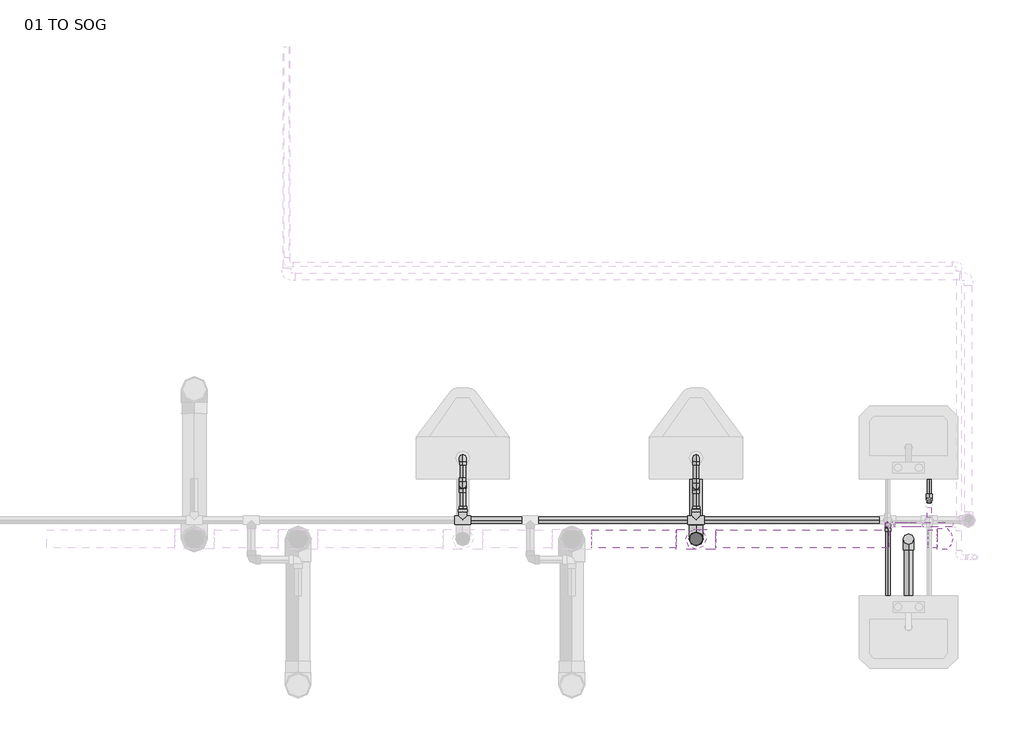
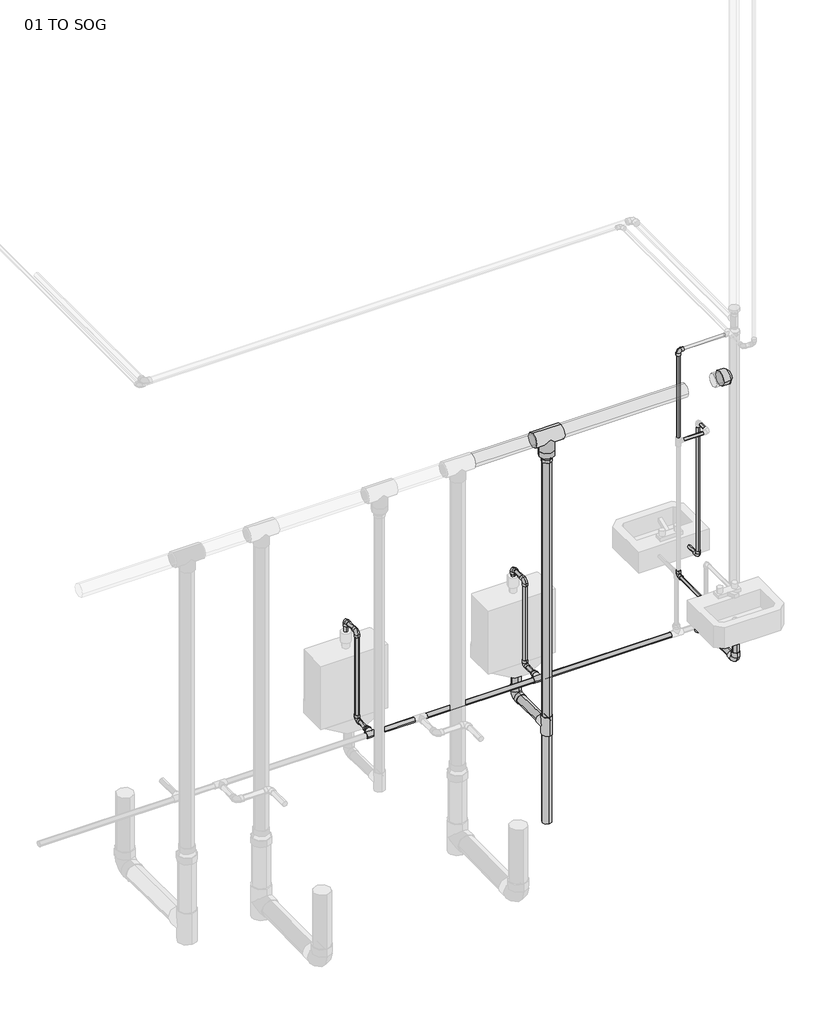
# One storey, part 3 of 4: 27 pipe segments, 20 pipe fittings.
"""IFC4 building model written with IfcOpenShell, lengths in millimetres."""

from ifc_helpers import new_model, si_unit, point, frame, frame_2d, origin, place, context, project, spatial, circle_curve, trimmed, segment, composite_curve, outline, extrude, transform, mapped, element, save
from components import cap_pvc_sch_40_standard_56ae4cf4, elbow_pvc_sch_40_standard_49eec4e1, elbow_pvc_sch_40_standard_39e3f0c3, elbow_pvc_sch_40_standard_69e4ce0e, elbow_pvc_sch_40_standard_b266ab3f, reducer_pvc_sch_40_dwv_standard_464ee0c2, reducer_pvc_sch_40_dwv_standard_0d64fc83, tee_pvc_sch_40_standard_b08d6211, tee_pvc_sch_40_standard_08ff6011, tee_pvc_sch_40_standard_9261842d, tee_pvc_sch_40_standard_72b35c3b

model = new_model("IFC4")

# Units and contexts
model_context = context("Model", 3, world=origin())
ifc_project = project(units=[si_unit("LENGTHUNIT", "METRE", prefix="MILLI")], contexts=[model_context])

# Site, building, storey
site = spatial("IfcSite", under=ifc_project)
building = spatial("IfcBuilding", under=site)
storey = spatial("IfcBuildingStorey", under=building, Name="01 TO SOG", Elevation=0.0)

# Pipe fittings
placement = place(None, origin())
cap_pvc_sch_40_standard_shape = cap_pvc_sch_40_standard_56ae4cf4(model_context)
element("IfcPipeFitting", 1, ObjectType="Cap - PVC - Sch 40 : Standard", at=placement, inside=storey, context=model_context, shape_type="MappedRepresentation", body=[
    mapped(cap_pvc_sch_40_standard_shape, transform((-12487.0540617, -4439.7857603, 2163.7752), x_axis=(1.0, 0.0, 0.0), y_axis=(0.0, 1.0, 0.0), z_axis=(0.0, 0.0, 1.0))),
])
elbow_pvc_sch_40_standard_shape = elbow_pvc_sch_40_standard_49eec4e1(model_context)
element("IfcPipeFitting", 2, ObjectType="Elbow - PVC - Sch 40 : Standard", at=placement, inside=storey, context=model_context, shape_type="MappedRepresentation", body=[
    mapped(elbow_pvc_sch_40_standard_shape, transform((-12527.2862378, -4252.3203325, 786.9219792), x_axis=(0.0, -1.0, 0.0), y_axis=(0.0, 0.0, 1.0), z_axis=(-1.0, 0.0, 0.0))),
])
element("IfcPipeFitting", 3, ObjectType="Elbow - PVC - Sch 40 : Standard", at=placement, inside=storey, context=model_context, shape_type="MappedRepresentation", body=[
    mapped(elbow_pvc_sch_40_standard_shape, transform((-12729.9542617, -4369.7953325, 787.4), x_axis=(0.0, 0.0, -1.0), y_axis=(0.0, -1.0, 0.0), z_axis=(-1.0, 0.0, 0.0))),
])
element("IfcPipeFitting", 4, ObjectType="Elbow - PVC - Sch 40 : Standard", at=placement, inside=storey, context=model_context, shape_type="MappedRepresentation", body=[
    mapped(elbow_pvc_sch_40_standard_shape, transform((-12729.9542617, -4369.7953325, 2409.1325453), x_axis=(0.0, 0.0, 1.0), y_axis=(1.0, 0.0, 0.0), z_axis=(0.0, 1.0, 0.0))),
])
elbow_pvc_sch_40_standard_2_shape = elbow_pvc_sch_40_standard_39e3f0c3(model_context)
element("IfcPipeFitting", 5, ObjectType="Elbow - PVC - Sch 40 : Standard", at=placement, inside=storey, context=model_context, shape_type="MappedRepresentation", body=[
    mapped(elbow_pvc_sch_40_standard_2_shape, transform((-13669.7542617, -4075.7109575, 77.7875), x_axis=(0.0, 0.0, -1.0), y_axis=(0.0, -1.0, 0.0), z_axis=(-1.0, 0.0, 0.0))),
])
elbow_pvc_sch_40_standard_3_shape = elbow_pvc_sch_40_standard_69e4ce0e(model_context)
element("IfcPipeFitting", 6, ObjectType="Elbow - PVC - Sch 40 : Standard", at=placement, inside=storey, context=model_context, shape_type="MappedRepresentation", body=[
    mapped(elbow_pvc_sch_40_standard_3_shape, transform((-12628.3542617, -4871.4453325, 447.675), x_axis=(0.0, 0.0, -1.0), y_axis=(0.0, 1.0, 0.0), z_axis=(1.0, 0.0, 0.0))),
])
elbow_pvc_sch_40_standard_4_shape = elbow_pvc_sch_40_standard_b266ab3f(model_context)
element("IfcPipeFitting", 7, ObjectType="Elbow - PVC - Sch 40 : Standard", at=placement, inside=storey, context=model_context, shape_type="MappedRepresentation", body=[
    mapped(elbow_pvc_sch_40_standard_4_shape, transform((-14812.7542617, -4041.5797075, 988.21875), x_axis=(0.0, 0.0, 1.0), y_axis=(0.0, -1.0, 0.0), z_axis=(1.0, 0.0, 0.0))),
])
element("IfcPipeFitting", 8, ObjectType="Elbow - PVC - Sch 40 : Standard", at=placement, inside=storey, context=model_context, shape_type="MappedRepresentation", body=[
    mapped(elbow_pvc_sch_40_standard_4_shape, transform((-14812.7542617, -4174.9297075, 988.21875), x_axis=(0.0, -1.0, 0.0), y_axis=(0.0, 0.0, -1.0), z_axis=(1.0, 0.0, 0.0))),
])
element("IfcPipeFitting", 9, ObjectType="Elbow - PVC - Sch 40 : Standard", at=placement, inside=storey, context=model_context, shape_type="MappedRepresentation", body=[
    mapped(elbow_pvc_sch_40_standard_4_shape, transform((-14812.7542617, -4174.9297075, 355.6), x_axis=(0.0, 0.0, -1.0), y_axis=(0.0, -1.0, 0.0), z_axis=(-1.0, 0.0, 0.0))),
])
element("IfcPipeFitting", 10, ObjectType="Elbow - PVC - Sch 40 : Standard", at=placement, inside=storey, context=model_context, shape_type="MappedRepresentation", body=[
    mapped(elbow_pvc_sch_40_standard_4_shape, transform((-13669.7542617, -4041.5797075, 962.81875), x_axis=(0.0, 0.0, 1.0), y_axis=(0.0, -1.0, 0.0), z_axis=(1.0, 0.0, 0.0))),
])
element("IfcPipeFitting", 11, ObjectType="Elbow - PVC - Sch 40 : Standard", at=placement, inside=storey, context=model_context, shape_type="MappedRepresentation", body=[
    mapped(elbow_pvc_sch_40_standard_4_shape, transform((-13669.7542617, -4181.2797075, 962.81875), x_axis=(0.0, -1.0, 0.0), y_axis=(0.0, 0.0, -1.0), z_axis=(1.0, 0.0, 0.0))),
])
element("IfcPipeFitting", 12, ObjectType="Elbow - PVC - Sch 40 : Standard", at=placement, inside=storey, context=model_context, shape_type="MappedRepresentation", body=[
    mapped(elbow_pvc_sch_40_standard_4_shape, transform((-13669.7542617, -4181.2797075, 355.6), x_axis=(0.0, 0.0, -1.0), y_axis=(0.0, -1.0, 0.0), z_axis=(-1.0, 0.0, 0.0))),
])
reducer_pvc_sch_40_dwv_standard_shape = reducer_pvc_sch_40_dwv_standard_464ee0c2(model_context)
element("IfcPipeFitting", 13, ObjectType="Reducer - PVC - Sch 40 - DWV : Standard", at=placement, inside=storey, context=model_context, shape_type="MappedRepresentation", body=[
    mapped(reducer_pvc_sch_40_dwv_standard_shape, transform((-13669.7542617, -4439.7857603, 2066.925), x_axis=(0.0, 0.0, -1.0), y_axis=(-1.0, 0.0, 0.0), z_axis=(0.0, 1.0, 0.0))),
])
reducer_pvc_sch_40_dwv_standard_2_shape = reducer_pvc_sch_40_dwv_standard_0d64fc83(model_context)
element("IfcPipeFitting", 14, ObjectType="Reducer - PVC - Sch 40 - DWV : Standard", at=placement, inside=storey, context=model_context, shape_type="MappedRepresentation", body=[
    mapped(reducer_pvc_sch_40_dwv_standard_2_shape, transform((-14812.7542617, -4307.8701325, 355.6), x_axis=(0.0, 1.0, 0.0), y_axis=(-1.0, 0.0, 0.0), z_axis=(0.0, 0.0, 1.0))),
])
element("IfcPipeFitting", 15, ObjectType="Reducer - PVC - Sch 40 - DWV : Standard", at=placement, inside=storey, context=model_context, shape_type="MappedRepresentation", body=[
    mapped(reducer_pvc_sch_40_dwv_standard_2_shape, transform((-13669.7542617, -4307.8701325, 355.6), x_axis=(0.0, 1.0, 0.0), y_axis=(-1.0, 0.0, 0.0), z_axis=(0.0, 0.0, 1.0))),
])
tee_pvc_sch_40_standard_shape = tee_pvc_sch_40_standard_b08d6211(model_context)
element("IfcPipeFitting", 16, ObjectType="Tee - PVC - Sch 40 : Standard", at=placement, inside=storey, context=model_context, shape_type="MappedRepresentation", body=[
    mapped(tee_pvc_sch_40_standard_shape, transform((-13669.7542617, -4439.7857603, 81.5799459), x_axis=(0.0, 0.0, 1.0), y_axis=(0.0, -1.0, 0.0), z_axis=(1.0, 0.0, 0.0))),
])
tee_pvc_sch_40_standard_2_shape = tee_pvc_sch_40_standard_08ff6011(model_context)
element("IfcPipeFitting", 17, ObjectType="Tee - PVC - Sch 40 : Standard", at=placement, inside=storey, context=model_context, shape_type="MappedRepresentation", body=[
    mapped(tee_pvc_sch_40_standard_2_shape, transform((-12628.3542617, -4439.7857603, 447.675), x_axis=(0.0, 0.0, 1.0), y_axis=(0.0, 1.0, 0.0), z_axis=(-1.0, 0.0, 0.0))),
])
tee_pvc_sch_40_standard_3_shape = tee_pvc_sch_40_standard_9261842d(model_context)
element("IfcPipeFitting", 18, ObjectType="Tee - PVC - Sch 40 : Standard", at=placement, inside=storey, context=model_context, shape_type="MappedRepresentation", body=[
    mapped(tee_pvc_sch_40_standard_3_shape, transform((-13669.7542617, -4439.7857603, 2163.7752), x_axis=(-1.0, 0.0, 0.0), y_axis=(0.0, 0.0, 1.0), z_axis=(0.0, 1.0, 0.0))),
])
tee_pvc_sch_40_standard_4_shape = tee_pvc_sch_40_standard_72b35c3b(model_context)
element("IfcPipeFitting", 19, ObjectType="Tee - PVC - Sch 40 : Standard", at=placement, inside=storey, context=model_context, shape_type="MappedRepresentation", body=[
    mapped(tee_pvc_sch_40_standard_4_shape, transform((-14812.7542617, -4347.5703325, 355.6), x_axis=(-1.0, 0.0, 0.0), y_axis=(0.0, -1.0, 0.0), z_axis=(0.0, 0.0, 1.0))),
])
element("IfcPipeFitting", 20, ObjectType="Tee - PVC - Sch 40 : Standard", at=placement, inside=storey, context=model_context, shape_type="MappedRepresentation", body=[
    mapped(tee_pvc_sch_40_standard_4_shape, transform((-13669.7542617, -4347.5703325, 355.6), x_axis=(-1.0, 0.0, 0.0), y_axis=(0.0, -1.0, 0.0), z_axis=(0.0, 0.0, 1.0))),
])

# Pipe segments
element("IfcPipeSegment", 21, ObjectType="Standard", at=placement, inside=storey, context=model_context, shape_type="SweptSolid", body=[
    extrude(outline(composite_curve([segment(trimmed(circle_curve(frame_2d((-13669.7542617, -4075.7109575)), 30.1625), [point((-13639.5917617, -4075.7109575))], [point((-13669.7542617, -4105.8734575))], False, "CARTESIAN"), True, "CONTINUOUS"), segment(trimmed(circle_curve(frame_2d((-13669.7542617, -4075.7109575)), 30.1625), [point((-13669.7542617, -4105.8734575))], [point((-13699.9167617, -4075.7109575))], False, "CARTESIAN"), True, "CONTINUOUS"), segment(trimmed(circle_curve(frame_2d((-13669.7542617, -4075.7109575)), 30.1625), [point((-13699.9167617, -4075.7109575))], [point((-13669.7542617, -4045.5484575))], False, "CARTESIAN"), True, "CONTINUOUS"), segment(trimmed(circle_curve(frame_2d((-13669.7542617, -4075.7109575)), 30.1625), [point((-13669.7542617, -4045.5484575))], [point((-13639.5917617, -4075.7109575))], False, "CARTESIAN"), True, "CONTINUOUS")], self_intersect=False)), frame((0.0, 0.0, 142.4470133), z_axis=(0.0, 0.0, 1.0), x_axis=(1.0, 0.0, 0.0)), (0.0, 0.0, 1.0), 106.7904867),
])
element("IfcPipeSegment", 22, ObjectType="Standard", at=placement, inside=storey, context=model_context, shape_type="SweptSolid", body=[
    extrude(outline(composite_curve([segment(trimmed(circle_curve(frame_2d((0.0, 30.1625001)), 30.1625), [point((-30.1625, 30.1625001))], [point((0.0, 60.3250001))], False, "CARTESIAN"), True, "CONTINUOUS"), segment(trimmed(circle_curve(frame_2d((0.0, 30.1625001)), 30.1625), [point((0.0, 60.3250001))], [point((30.1625, 30.1625001))], False, "CARTESIAN"), True, "CONTINUOUS"), segment(trimmed(circle_curve(frame_2d((0.0, 30.1625001)), 30.1625), [point((30.1625, 30.1625001))], [point((0.0, 0.0))], False, "CARTESIAN"), True, "CONTINUOUS"), segment(trimmed(circle_curve(frame_2d((0.0, 30.1625001)), 30.1625), [point((0.0, 0.0))], [point((-30.1625, 30.1625001))], False, "CARTESIAN"), True, "CONTINUOUS")], self_intersect=False)), frame((-13669.7542617, -4140.6811388, 48.3001363), z_axis=(0.0, -0.9999457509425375, 0.010416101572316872), x_axis=(1.0, 0.0, 0.0)), (0.0, 0.0, 1.0), 232.7600412),
])
element("IfcPipeSegment", 23, ObjectType="Standard", at=placement, inside=storey, context=model_context, shape_type="SweptSolid", body=[
    extrude(outline(composite_curve([segment(trimmed(circle_curve(frame_2d((-13669.7542617, -4439.7857603)), 30.1625), [point((-13699.9167617, -4439.7857603))], [point((-13669.7542617, -4409.6232603))], False, "CARTESIAN"), True, "CONTINUOUS"), segment(trimmed(circle_curve(frame_2d((-13669.7542617, -4439.7857603)), 30.1625), [point((-13669.7542617, -4409.6232603))], [point((-13639.5917617, -4439.7857603))], False, "CARTESIAN"), True, "CONTINUOUS"), segment(trimmed(circle_curve(frame_2d((-13669.7542617, -4439.7857603)), 30.1625), [point((-13639.5917617, -4439.7857603))], [point((-13669.7542617, -4469.9482603))], False, "CARTESIAN"), True, "CONTINUOUS"), segment(trimmed(circle_curve(frame_2d((-13669.7542617, -4439.7857603)), 30.1625), [point((-13669.7542617, -4469.9482603))], [point((-13699.9167617, -4439.7857603))], False, "CARTESIAN"), True, "CONTINUOUS")], self_intersect=False)), frame((0.0, 0.0, -622.5693487), z_axis=(0.0, 0.0, 1.0), x_axis=(1.0, 0.0, 0.0)), (0.0, 0.0, 1.0), 637.4742946),
])
element("IfcPipeSegment", 24, ObjectType="Standard", at=placement, inside=storey, context=model_context, shape_type="SweptSolid", body=[
    extrude(outline(composite_curve([segment(trimmed(circle_curve(frame_2d((-12628.3542617, -4871.4453325)), 21.034375), [point((-12607.3198867, -4871.4453325))], [point((-12628.3542617, -4892.4797075))], False, "CARTESIAN"), True, "CONTINUOUS"), segment(trimmed(circle_curve(frame_2d((-12628.3542617, -4871.4453325)), 21.034375), [point((-12628.3542617, -4892.4797075))], [point((-12649.3886367, -4871.4453325))], False, "CARTESIAN"), True, "CONTINUOUS"), segment(trimmed(circle_curve(frame_2d((-12628.3542617, -4871.4453325)), 21.034375), [point((-12649.3886367, -4871.4453325))], [point((-12628.3542617, -4850.4109575))], False, "CARTESIAN"), True, "CONTINUOUS"), segment(trimmed(circle_curve(frame_2d((-12628.3542617, -4871.4453325)), 21.034375), [point((-12628.3542617, -4850.4109575))], [point((-12607.3198867, -4871.4453325))], False, "CARTESIAN"), True, "CONTINUOUS")], self_intersect=False)), frame((0.0, 0.0, 505.61875), z_axis=(0.0, 0.0, 1.0), x_axis=(1.0, 0.0, 0.0)), (0.0, 0.0, 1.0), 205.58125),
])
element("IfcPipeSegment", 25, ObjectType="Standard", at=placement, inside=storey, context=model_context, shape_type="SweptSolid", body=[
    extrude(outline(composite_curve([segment(trimmed(circle_curve(frame_2d((-13669.7542617, -4439.7857603)), 30.1625), [point((-13639.5917617, -4439.7857603))], [point((-13669.7542617, -4469.9482603))], False, "CARTESIAN"), True, "CONTINUOUS"), segment(trimmed(circle_curve(frame_2d((-13669.7542617, -4439.7857603)), 30.1625), [point((-13669.7542617, -4469.9482603))], [point((-13699.9167617, -4439.7857603))], False, "CARTESIAN"), True, "CONTINUOUS"), segment(trimmed(circle_curve(frame_2d((-13669.7542617, -4439.7857603)), 30.1625), [point((-13699.9167617, -4439.7857603))], [point((-13669.7542617, -4409.6232603))], False, "CARTESIAN"), True, "CONTINUOUS"), segment(trimmed(circle_curve(frame_2d((-13669.7542617, -4439.7857603)), 30.1625), [point((-13669.7542617, -4409.6232603))], [point((-13639.5917617, -4439.7857603))], False, "CARTESIAN"), True, "CONTINUOUS")], self_intersect=False)), frame((0.0, 0.0, 148.2549459), z_axis=(0.0, 0.0, 1.0), x_axis=(1.0, 0.0, 0.0)), (0.0, 0.0, 1.0), 1839.2950541),
])
element("IfcPipeSegment", 26, ObjectType="Standard", at=placement, inside=storey, context=model_context, shape_type="SweptSolid", body=[
    extrude(outline(composite_curve([segment(trimmed(circle_curve(frame_2d((447.675, -12628.3542617)), 21.034375), [point((447.675, -12649.3886367))], [point((426.640625, -12628.3542617))], False, "CARTESIAN"), True, "CONTINUOUS"), segment(trimmed(circle_curve(frame_2d((447.675, -12628.3542617)), 21.034375), [point((426.640625, -12628.3542617))], [point((447.675, -12607.3198867))], False, "CARTESIAN"), True, "CONTINUOUS"), segment(trimmed(circle_curve(frame_2d((447.675, -12628.3542617)), 21.034375), [point((447.675, -12607.3198867))], [point((468.709375, -12628.3542617))], False, "CARTESIAN"), True, "CONTINUOUS"), segment(trimmed(circle_curve(frame_2d((447.675, -12628.3542617)), 21.034375), [point((468.709375, -12628.3542617))], [point((447.675, -12649.3886367))], False, "CARTESIAN"), True, "CONTINUOUS")], self_intersect=False)), frame((0.0, -4813.5015825, 0.0), z_axis=(0.0, 1.0, 0.0), x_axis=(0.0, 0.0, 1.0)), (0.0, 0.0, 1.0), 319.7408222),
])
element("IfcPipeSegment", 27, ObjectType="Standard", at=placement, inside=storey, context=model_context, shape_type="SweptSolid", body=[
    extrude(outline(composite_curve([segment(trimmed(circle_curve(frame_2d((-4439.7857603, 2163.7752)), 44.45), [point((-4484.2357603, 2163.7752))], [point((-4439.7857603, 2208.2252))], False, "CARTESIAN"), True, "CONTINUOUS"), segment(trimmed(circle_curve(frame_2d((-4439.7857603, 2163.7752)), 44.45), [point((-4439.7857603, 2208.2252))], [point((-4395.3357603, 2163.7752))], False, "CARTESIAN"), True, "CONTINUOUS"), segment(trimmed(circle_curve(frame_2d((-4439.7857603, 2163.7752)), 44.45), [point((-4395.3357603, 2163.7752))], [point((-4439.7857603, 2119.3252))], False, "CARTESIAN"), True, "CONTINUOUS"), segment(trimmed(circle_curve(frame_2d((-4439.7857603, 2163.7752)), 44.45), [point((-4439.7857603, 2119.3252))], [point((-4484.2357603, 2163.7752))], False, "CARTESIAN"), True, "CONTINUOUS")], self_intersect=False)), frame((-12531.5040617, 0.0, 0.0), z_axis=(1.0, 0.0, 0.0), x_axis=(0.0, 1.0, 0.0)), (0.0, 0.0, 1.0), 44.45),
])
element("IfcPipeSegment", 28, ObjectType="Standard", at=placement, inside=storey, context=model_context, shape_type="SweptSolid", body=[
    extrude(outline(composite_curve([segment(trimmed(circle_curve(frame_2d((-4439.7857603, 2163.7752)), 44.45), [point((-4484.2357603, 2163.7752))], [point((-4439.7857603, 2208.2252))], False, "CARTESIAN"), True, "CONTINUOUS"), segment(trimmed(circle_curve(frame_2d((-4439.7857603, 2163.7752)), 44.45), [point((-4439.7857603, 2208.2252))], [point((-4395.3357603, 2163.7752))], False, "CARTESIAN"), True, "CONTINUOUS"), segment(trimmed(circle_curve(frame_2d((-4439.7857603, 2163.7752)), 44.45), [point((-4395.3357603, 2163.7752))], [point((-4439.7857603, 2119.3252))], False, "CARTESIAN"), True, "CONTINUOUS"), segment(trimmed(circle_curve(frame_2d((-4439.7857603, 2163.7752)), 44.45), [point((-4439.7857603, 2119.3252))], [point((-4484.2357603, 2163.7752))], False, "CARTESIAN"), True, "CONTINUOUS")], self_intersect=False)), frame((-14181.8760962, 0.0, 0.0), z_axis=(1.0, 0.0, 0.0), x_axis=(0.0, 1.0, 0.0)), (0.0, 0.0, 1.0), 415.2716345),
])
element("IfcPipeSegment", 29, ObjectType="Standard", at=placement, inside=storey, context=model_context, shape_type="SweptSolid", body=[
    extrude(outline(composite_curve([segment(trimmed(circle_curve(frame_2d((-4439.7857603, 2163.7752)), 44.45), [point((-4484.2357603, 2163.7752))], [point((-4439.7857603, 2208.2252))], False, "CARTESIAN"), True, "CONTINUOUS"), segment(trimmed(circle_curve(frame_2d((-4439.7857603, 2163.7752)), 44.45), [point((-4439.7857603, 2208.2252))], [point((-4395.3357603, 2163.7752))], False, "CARTESIAN"), True, "CONTINUOUS"), segment(trimmed(circle_curve(frame_2d((-4439.7857603, 2163.7752)), 44.45), [point((-4395.3357603, 2163.7752))], [point((-4439.7857603, 2119.3252))], False, "CARTESIAN"), True, "CONTINUOUS"), segment(trimmed(circle_curve(frame_2d((-4439.7857603, 2163.7752)), 44.45), [point((-4439.7857603, 2119.3252))], [point((-4484.2357603, 2163.7752))], False, "CARTESIAN"), True, "CONTINUOUS")], self_intersect=False)), frame((-13572.9040617, 0.0, 0.0), z_axis=(1.0, 0.0, 0.0), x_axis=(0.0, 1.0, 0.0)), (0.0, 0.0, 1.0), 847.6996),
])
element("IfcPipeSegment", 30, ObjectType="Standard", at=placement, inside=storey, context=model_context, shape_type="SweptSolid", body=[
    extrude(outline(composite_curve([segment(trimmed(circle_curve(frame_2d((0.0, -10.715625)), 10.715625), [point((0.0, 0.0))], [point((10.715625, -10.715625))], False, "CARTESIAN"), True, "CONTINUOUS"), segment(trimmed(circle_curve(frame_2d((0.0, -10.715625)), 10.715625), [point((10.715625, -10.715625))], [point((0.0, -21.43125))], False, "CARTESIAN"), True, "CONTINUOUS"), segment(trimmed(circle_curve(frame_2d((0.0, -10.715625)), 10.715625), [point((0.0, -21.43125))], [point((-10.715625, -10.715625))], False, "CARTESIAN"), True, "CONTINUOUS"), segment(trimmed(circle_curve(frame_2d((0.0, -10.715625)), 10.715625), [point((-10.715625, -10.715625))], [point((0.0, 0.0))], False, "CARTESIAN"), True, "CONTINUOUS")], self_intersect=False)), frame((-12538.0018628, -4218.5827825, 786.9219792), z_axis=(-1.1116046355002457e-12, 1.0, 0.0), x_axis=(0.0, 0.0, -1.0)), (0.0, 0.0, 1.0), 74.21245),
])
element("IfcPipeSegment", 31, ObjectType="Standard", at=placement, inside=storey, context=model_context, shape_type="SweptSolid", body=[
    extrude(outline(composite_curve([segment(trimmed(circle_curve(frame_2d((-12527.2862378, -4252.3203325)), 10.715625), [point((-12538.0018628, -4252.3203325))], [point((-12527.2862378, -4241.6047075))], False, "CARTESIAN"), True, "CONTINUOUS"), segment(trimmed(circle_curve(frame_2d((-12527.2862378, -4252.3203325)), 10.715625), [point((-12527.2862378, -4241.6047075))], [point((-12516.5706128, -4252.3203325))], False, "CARTESIAN"), True, "CONTINUOUS"), segment(trimmed(circle_curve(frame_2d((-12527.2862378, -4252.3203325)), 10.715625), [point((-12516.5706128, -4252.3203325))], [point((-12527.2862378, -4263.0359575))], False, "CARTESIAN"), True, "CONTINUOUS"), segment(trimmed(circle_curve(frame_2d((-12527.2862378, -4252.3203325)), 10.715625), [point((-12527.2862378, -4263.0359575))], [point((-12538.0018628, -4252.3203325))], False, "CARTESIAN"), True, "CONTINUOUS")], self_intersect=False)), frame((0.0, 0.0, 820.6595292), z_axis=(0.0, 0.0, 1.0), x_axis=(1.0, 0.0, 0.0)), (0.0, 0.0, 1.0), 897.7249),
])
element("IfcPipeSegment", 32, ObjectType="Standard", at=placement, inside=storey, context=model_context, shape_type="SweptSolid", body=[
    extrude(outline(composite_curve([segment(trimmed(circle_curve(frame_2d((787.4, -12729.9542617)), 10.715625), [point((787.4, -12740.6698867))], [point((776.684375, -12729.9542617))], False, "CARTESIAN"), True, "CONTINUOUS"), segment(trimmed(circle_curve(frame_2d((787.4, -12729.9542617)), 10.715625), [point((776.684375, -12729.9542617))], [point((787.4, -12719.2386367))], False, "CARTESIAN"), True, "CONTINUOUS"), segment(trimmed(circle_curve(frame_2d((787.4, -12729.9542617)), 10.715625), [point((787.4, -12719.2386367))], [point((798.115625, -12729.9542617))], False, "CARTESIAN"), True, "CONTINUOUS"), segment(trimmed(circle_curve(frame_2d((787.4, -12729.9542617)), 10.715625), [point((798.115625, -12729.9542617))], [point((787.4, -12740.6698867))], False, "CARTESIAN"), True, "CONTINUOUS")], self_intersect=False)), frame((0.0, -4719.0453325, 0.0), z_axis=(0.0, 1.0, 0.0), x_axis=(0.0, 0.0, 1.0)), (0.0, 0.0, 1.0), 315.51245),
])
element("IfcPipeSegment", 33, ObjectType="Standard", at=placement, inside=storey, context=model_context, shape_type="SweptSolid", body=[
    extrude(outline(composite_curve([segment(trimmed(circle_curve(frame_2d((-12729.9542617, -4369.7953325)), 10.715625), [point((-12740.6698867, -4369.7953325))], [point((-12729.9542617, -4359.0797075))], False, "CARTESIAN"), True, "CONTINUOUS"), segment(trimmed(circle_curve(frame_2d((-12729.9542617, -4369.7953325)), 10.715625), [point((-12729.9542617, -4359.0797075))], [point((-12719.2386367, -4369.7953325))], False, "CARTESIAN"), True, "CONTINUOUS"), segment(trimmed(circle_curve(frame_2d((-12729.9542617, -4369.7953325)), 10.715625), [point((-12719.2386367, -4369.7953325))], [point((-12729.9542617, -4380.5109575))], False, "CARTESIAN"), True, "CONTINUOUS"), segment(trimmed(circle_curve(frame_2d((-12729.9542617, -4369.7953325)), 10.715625), [point((-12729.9542617, -4380.5109575))], [point((-12740.6698867, -4369.7953325))], False, "CARTESIAN"), True, "CONTINUOUS")], self_intersect=False)), frame((0.0, 0.0, 1783.8719792), z_axis=(0.0, 0.0, 1.0), x_axis=(1.0, 0.0, 0.0)), (0.0, 0.0, 1.0), 591.5230161),
])
element("IfcPipeSegment", 34, ObjectType="Standard", at=placement, inside=storey, context=model_context, shape_type="SweptSolid", body=[
    extrude(outline(composite_curve([segment(trimmed(circle_curve(frame_2d((-4369.7953325, 2409.1325453)), 10.715625), [point((-4380.5109575, 2409.1325453))], [point((-4369.7953325, 2419.8481703))], False, "CARTESIAN"), True, "CONTINUOUS"), segment(trimmed(circle_curve(frame_2d((-4369.7953325, 2409.1325453)), 10.715625), [point((-4369.7953325, 2419.8481703))], [point((-4359.0797075, 2409.1325453))], False, "CARTESIAN"), True, "CONTINUOUS"), segment(trimmed(circle_curve(frame_2d((-4369.7953325, 2409.1325453)), 10.715625), [point((-4359.0797075, 2409.1325453))], [point((-4369.7953325, 2398.4169203))], False, "CARTESIAN"), True, "CONTINUOUS"), segment(trimmed(circle_curve(frame_2d((-4369.7953325, 2409.1325453)), 10.715625), [point((-4369.7953325, 2398.4169203))], [point((-4380.5109575, 2409.1325453))], False, "CARTESIAN"), True, "CONTINUOUS")], self_intersect=False)), frame((-12696.2167117, 0.0, 0.0), z_axis=(1.0, 0.0, 0.0), x_axis=(0.0, 1.0, 0.0)), (0.0, 0.0, 1.0), 283.76245),
])
element("IfcPipeSegment", 35, ObjectType="Standard", at=placement, inside=storey, context=model_context, shape_type="SweptSolid", body=[
    extrude(outline(composite_curve([segment(trimmed(circle_curve(frame_2d((1752.1219792, -12527.2862378)), 10.715625), [point((1752.1219792, -12516.5706128))], [point((1762.8376042, -12527.2862378))], False, "CARTESIAN"), True, "CONTINUOUS"), segment(trimmed(circle_curve(frame_2d((1752.1219792, -12527.2862378)), 10.715625), [point((1762.8376042, -12527.2862378))], [point((1752.1219792, -12538.0018628))], False, "CARTESIAN"), True, "CONTINUOUS"), segment(trimmed(circle_curve(frame_2d((1752.1219792, -12527.2862378)), 10.715625), [point((1752.1219792, -12538.0018628))], [point((1741.4063542, -12527.2862378))], False, "CARTESIAN"), True, "CONTINUOUS"), segment(trimmed(circle_curve(frame_2d((1752.1219792, -12527.2862378)), 10.715625), [point((1741.4063542, -12527.2862378))], [point((1752.1219792, -12516.5706128))], False, "CARTESIAN"), True, "CONTINUOUS")], self_intersect=False)), frame((0.0, -4336.0577825, 0.0), z_axis=(0.0, 1.0, 0.0), x_axis=(0.0, 0.0, 1.0)), (0.0, 0.0, 1.0), 49.9999),
])
element("IfcPipeSegment", 36, ObjectType="Standard", at=placement, inside=storey, context=model_context, shape_type="SweptSolid", body=[
    extrude(outline(composite_curve([segment(trimmed(circle_curve(frame_2d((-4369.7953325, 1752.1219792)), 10.715625), [point((-4380.5109575, 1752.1219792))], [point((-4369.7953325, 1762.8376042))], False, "CARTESIAN"), True, "CONTINUOUS"), segment(trimmed(circle_curve(frame_2d((-4369.7953325, 1752.1219792)), 10.715625), [point((-4369.7953325, 1762.8376042))], [point((-4359.0797075, 1752.1219792))], False, "CARTESIAN"), True, "CONTINUOUS"), segment(trimmed(circle_curve(frame_2d((-4369.7953325, 1752.1219792)), 10.715625), [point((-4359.0797075, 1752.1219792))], [point((-4369.7953325, 1741.4063542))], False, "CARTESIAN"), True, "CONTINUOUS"), segment(trimmed(circle_curve(frame_2d((-4369.7953325, 1752.1219792)), 10.715625), [point((-4369.7953325, 1741.4063542))], [point((-4380.5109575, 1752.1219792))], False, "CARTESIAN"), True, "CONTINUOUS")], self_intersect=False)), frame((-12698.2042617, 0.0, 0.0), z_axis=(1.0, 0.0, 0.0), x_axis=(0.0, 1.0, 0.0)), (0.0, 0.0, 1.0), 137.1804738),
])
element("IfcPipeSegment", 37, ObjectType="Standard", at=placement, inside=storey, context=model_context, shape_type="SweptSolid", body=[
    extrude(outline(composite_curve([segment(trimmed(circle_curve(frame_2d((-14812.7542617, -4041.5797075)), 13.49375), [point((-14826.2480117, -4041.5797075))], [point((-14812.7542617, -4028.0859575))], False, "CARTESIAN"), True, "CONTINUOUS"), segment(trimmed(circle_curve(frame_2d((-14812.7542617, -4041.5797075)), 13.49375), [point((-14812.7542617, -4028.0859575))], [point((-14799.2605117, -4041.5797075))], False, "CARTESIAN"), True, "CONTINUOUS"), segment(trimmed(circle_curve(frame_2d((-14812.7542617, -4041.5797075)), 13.49375), [point((-14799.2605117, -4041.5797075))], [point((-14812.7542617, -4055.0734575))], False, "CARTESIAN"), True, "CONTINUOUS"), segment(trimmed(circle_curve(frame_2d((-14812.7542617, -4041.5797075)), 13.49375), [point((-14812.7542617, -4055.0734575))], [point((-14826.2480117, -4041.5797075))], False, "CARTESIAN"), True, "CONTINUOUS")], self_intersect=False)), frame((0.0, 0.0, 912.01875), z_axis=(0.0, 0.0, 1.0), x_axis=(1.0, 0.0, 0.0)), (0.0, 0.0, 1.0), 40.87495),
])
element("IfcPipeSegment", 38, ObjectType="Standard", at=placement, inside=storey, context=model_context, shape_type="SweptSolid", body=[
    extrude(outline(composite_curve([segment(trimmed(circle_curve(frame_2d((988.21875, -14812.7542617)), 13.49375), [point((988.21875, -14826.2480117))], [point((974.725, -14812.7542617))], False, "CARTESIAN"), True, "CONTINUOUS"), segment(trimmed(circle_curve(frame_2d((988.21875, -14812.7542617)), 13.49375), [point((974.725, -14812.7542617))], [point((988.21875, -14799.2605117))], False, "CARTESIAN"), True, "CONTINUOUS"), segment(trimmed(circle_curve(frame_2d((988.21875, -14812.7542617)), 13.49375), [point((988.21875, -14799.2605117))], [point((1001.7125, -14812.7542617))], False, "CARTESIAN"), True, "CONTINUOUS"), segment(trimmed(circle_curve(frame_2d((988.21875, -14812.7542617)), 13.49375), [point((1001.7125, -14812.7542617))], [point((988.21875, -14826.2480117))], False, "CARTESIAN"), True, "CONTINUOUS")], self_intersect=False)), frame((0.0, -4139.6046575, 0.0), z_axis=(0.0, 1.0, 0.0), x_axis=(0.0, 0.0, 1.0)), (0.0, 0.0, 1.0), 62.6999),
])
element("IfcPipeSegment", 39, ObjectType="Standard", at=placement, inside=storey, context=model_context, shape_type="SweptSolid", body=[
    extrude(outline(composite_curve([segment(trimmed(circle_curve(frame_2d((-14812.7542617, -4174.9297075)), 13.49375), [point((-14799.2605117, -4174.9297075))], [point((-14812.7542617, -4188.4234575))], False, "CARTESIAN"), True, "CONTINUOUS"), segment(trimmed(circle_curve(frame_2d((-14812.7542617, -4174.9297075)), 13.49375), [point((-14812.7542617, -4188.4234575))], [point((-14826.2480117, -4174.9297075))], False, "CARTESIAN"), True, "CONTINUOUS"), segment(trimmed(circle_curve(frame_2d((-14812.7542617, -4174.9297075)), 13.49375), [point((-14826.2480117, -4174.9297075))], [point((-14812.7542617, -4161.4359575))], False, "CARTESIAN"), True, "CONTINUOUS"), segment(trimmed(circle_curve(frame_2d((-14812.7542617, -4174.9297075)), 13.49375), [point((-14812.7542617, -4161.4359575))], [point((-14799.2605117, -4174.9297075))], False, "CARTESIAN"), True, "CONTINUOUS")], self_intersect=False)), frame((0.0, 0.0, 390.92505), z_axis=(0.0, 0.0, 1.0), x_axis=(1.0, 0.0, 0.0)), (0.0, 0.0, 1.0), 561.96865),
])
element("IfcPipeSegment", 40, ObjectType="Standard", at=placement, inside=storey, context=model_context, shape_type="SweptSolid", body=[
    extrude(outline(composite_curve([segment(trimmed(circle_curve(frame_2d((355.6, -14812.7542617)), 13.49375), [point((355.6, -14826.2480117))], [point((342.10625, -14812.7542617))], False, "CARTESIAN"), True, "CONTINUOUS"), segment(trimmed(circle_curve(frame_2d((355.6, -14812.7542617)), 13.49375), [point((342.10625, -14812.7542617))], [point((355.6, -14799.2605117))], False, "CARTESIAN"), True, "CONTINUOUS"), segment(trimmed(circle_curve(frame_2d((355.6, -14812.7542617)), 13.49375), [point((355.6, -14799.2605117))], [point((369.09375, -14812.7542617))], False, "CARTESIAN"), True, "CONTINUOUS"), segment(trimmed(circle_curve(frame_2d((355.6, -14812.7542617)), 13.49375), [point((369.09375, -14812.7542617))], [point((355.6, -14826.2480117))], False, "CARTESIAN"), True, "CONTINUOUS")], self_intersect=False)), frame((0.0, -4280.7675388, 0.0), z_axis=(0.0, 1.0, 0.0), x_axis=(0.0, 0.0, 1.0)), (0.0, 0.0, 1.0), 70.5127813),
])
element("IfcPipeSegment", 41, ObjectType="Standard", at=placement, inside=storey, context=model_context, shape_type="SweptSolid", body=[
    extrude(outline(composite_curve([segment(trimmed(circle_curve(frame_2d((-4347.5703325, 355.6)), 16.66875), [point((-4364.2390825, 355.6))], [point((-4347.5703325, 372.26875))], False, "CARTESIAN"), True, "CONTINUOUS"), segment(trimmed(circle_curve(frame_2d((-4347.5703325, 355.6)), 16.66875), [point((-4347.5703325, 372.26875))], [point((-4330.9015825, 355.6))], False, "CARTESIAN"), True, "CONTINUOUS"), segment(trimmed(circle_curve(frame_2d((-4347.5703325, 355.6)), 16.66875), [point((-4330.9015825, 355.6))], [point((-4347.5703325, 338.93125))], False, "CARTESIAN"), True, "CONTINUOUS"), segment(trimmed(circle_curve(frame_2d((-4347.5703325, 355.6)), 16.66875), [point((-4347.5703325, 338.93125))], [point((-4364.2390825, 355.6))], False, "CARTESIAN"), True, "CONTINUOUS")], self_intersect=False)), frame((-14773.0540617, 0.0, 0.0), z_axis=(1.0, 0.0, 0.0), x_axis=(0.0, 1.0, 0.0)), (0.0, 0.0, 1.0), 251.4275655),
])
element("IfcPipeSegment", 42, ObjectType="Standard", at=placement, inside=storey, context=model_context, shape_type="SweptSolid", body=[
    extrude(outline(composite_curve([segment(trimmed(circle_curve(frame_2d((-13669.7542617, -4041.5797075)), 13.49375), [point((-13683.2480117, -4041.5797075))], [point((-13669.7542617, -4028.0859575))], False, "CARTESIAN"), True, "CONTINUOUS"), segment(trimmed(circle_curve(frame_2d((-13669.7542617, -4041.5797075)), 13.49375), [point((-13669.7542617, -4028.0859575))], [point((-13656.2605117, -4041.5797075))], False, "CARTESIAN"), True, "CONTINUOUS"), segment(trimmed(circle_curve(frame_2d((-13669.7542617, -4041.5797075)), 13.49375), [point((-13656.2605117, -4041.5797075))], [point((-13669.7542617, -4055.0734575))], False, "CARTESIAN"), True, "CONTINUOUS"), segment(trimmed(circle_curve(frame_2d((-13669.7542617, -4041.5797075)), 13.49375), [point((-13669.7542617, -4055.0734575))], [point((-13683.2480117, -4041.5797075))], False, "CARTESIAN"), True, "CONTINUOUS")], self_intersect=False)), frame((0.0, 0.0, 912.01875), z_axis=(0.0, 0.0, 1.0), x_axis=(1.0, 0.0, 0.0)), (0.0, 0.0, 1.0), 15.47495),
])
element("IfcPipeSegment", 43, ObjectType="Standard", at=placement, inside=storey, context=model_context, shape_type="SweptSolid", body=[
    extrude(outline(composite_curve([segment(trimmed(circle_curve(frame_2d((962.81875, -13669.7542617)), 13.49375), [point((962.81875, -13683.2480117))], [point((949.325, -13669.7542617))], False, "CARTESIAN"), True, "CONTINUOUS"), segment(trimmed(circle_curve(frame_2d((962.81875, -13669.7542617)), 13.49375), [point((949.325, -13669.7542617))], [point((962.81875, -13656.2605117))], False, "CARTESIAN"), True, "CONTINUOUS"), segment(trimmed(circle_curve(frame_2d((962.81875, -13669.7542617)), 13.49375), [point((962.81875, -13656.2605117))], [point((976.3125, -13669.7542617))], False, "CARTESIAN"), True, "CONTINUOUS"), segment(trimmed(circle_curve(frame_2d((962.81875, -13669.7542617)), 13.49375), [point((976.3125, -13669.7542617))], [point((962.81875, -13683.2480117))], False, "CARTESIAN"), True, "CONTINUOUS")], self_intersect=False)), frame((0.0, -4145.9546575, 0.0), z_axis=(0.0, 1.0, 0.0), x_axis=(0.0, 0.0, 1.0)), (0.0, 0.0, 1.0), 69.0499),
])
element("IfcPipeSegment", 44, ObjectType="Standard", at=placement, inside=storey, context=model_context, shape_type="SweptSolid", body=[
    extrude(outline(composite_curve([segment(trimmed(circle_curve(frame_2d((-13669.7542617, -4181.2797075)), 13.49375), [point((-13656.2605117, -4181.2797075))], [point((-13669.7542617, -4194.7734575))], False, "CARTESIAN"), True, "CONTINUOUS"), segment(trimmed(circle_curve(frame_2d((-13669.7542617, -4181.2797075)), 13.49375), [point((-13669.7542617, -4194.7734575))], [point((-13683.2480117, -4181.2797075))], False, "CARTESIAN"), True, "CONTINUOUS"), segment(trimmed(circle_curve(frame_2d((-13669.7542617, -4181.2797075)), 13.49375), [point((-13683.2480117, -4181.2797075))], [point((-13669.7542617, -4167.7859575))], False, "CARTESIAN"), True, "CONTINUOUS"), segment(trimmed(circle_curve(frame_2d((-13669.7542617, -4181.2797075)), 13.49375), [point((-13669.7542617, -4167.7859575))], [point((-13656.2605117, -4181.2797075))], False, "CARTESIAN"), True, "CONTINUOUS")], self_intersect=False)), frame((0.0, 0.0, 390.92505), z_axis=(0.0, 0.0, 1.0), x_axis=(1.0, 0.0, 0.0)), (0.0, 0.0, 1.0), 536.56865),
])
element("IfcPipeSegment", 45, ObjectType="Standard", at=placement, inside=storey, context=model_context, shape_type="SweptSolid", body=[
    extrude(outline(composite_curve([segment(trimmed(circle_curve(frame_2d((355.6, -13669.7542617)), 13.49375), [point((355.6, -13683.2480117))], [point((342.10625, -13669.7542617))], False, "CARTESIAN"), True, "CONTINUOUS"), segment(trimmed(circle_curve(frame_2d((355.6, -13669.7542617)), 13.49375), [point((342.10625, -13669.7542617))], [point((355.6, -13656.2605117))], False, "CARTESIAN"), True, "CONTINUOUS"), segment(trimmed(circle_curve(frame_2d((355.6, -13669.7542617)), 13.49375), [point((355.6, -13656.2605117))], [point((369.09375, -13669.7542617))], False, "CARTESIAN"), True, "CONTINUOUS"), segment(trimmed(circle_curve(frame_2d((355.6, -13669.7542617)), 13.49375), [point((369.09375, -13669.7542617))], [point((355.6, -13683.2480117))], False, "CARTESIAN"), True, "CONTINUOUS")], self_intersect=False)), frame((0.0, -4280.7675388, 0.0), z_axis=(0.0, 1.0, 0.0), x_axis=(0.0, 0.0, 1.0)), (0.0, 0.0, 1.0), 64.1627813),
])
element("IfcPipeSegment", 46, ObjectType="Standard", at=placement, inside=storey, context=model_context, shape_type="SweptSolid", body=[
    extrude(outline(composite_curve([segment(trimmed(circle_curve(frame_2d((-4347.5703325, 355.6)), 16.66875), [point((-4364.2390825, 355.6))], [point((-4347.5703325, 372.26875))], False, "CARTESIAN"), True, "CONTINUOUS"), segment(trimmed(circle_curve(frame_2d((-4347.5703325, 355.6)), 16.66875), [point((-4347.5703325, 372.26875))], [point((-4330.9015825, 355.6))], False, "CARTESIAN"), True, "CONTINUOUS"), segment(trimmed(circle_curve(frame_2d((-4347.5703325, 355.6)), 16.66875), [point((-4330.9015825, 355.6))], [point((-4347.5703325, 338.93125))], False, "CARTESIAN"), True, "CONTINUOUS"), segment(trimmed(circle_curve(frame_2d((-4347.5703325, 355.6)), 16.66875), [point((-4347.5703325, 338.93125))], [point((-4364.2390825, 355.6))], False, "CARTESIAN"), True, "CONTINUOUS")], self_intersect=False)), frame((-13630.0540617, 0.0, 0.0), z_axis=(1.0, 0.0, 0.0), x_axis=(0.0, 1.0, 0.0)), (0.0, 0.0, 1.0), 859.8676238),
])
element("IfcPipeSegment", 47, ObjectType="Standard", at=placement, inside=storey, context=model_context, shape_type="SweptSolid", body=[
    extrude(outline(composite_curve([segment(trimmed(circle_curve(frame_2d((-4347.5703325, 355.6)), 16.66875), [point((-4364.2390825, 355.6))], [point((-4347.5703325, 372.26875))], False, "CARTESIAN"), True, "CONTINUOUS"), segment(trimmed(circle_curve(frame_2d((-4347.5703325, 355.6)), 16.66875), [point((-4347.5703325, 372.26875))], [point((-4330.9015825, 355.6))], False, "CARTESIAN"), True, "CONTINUOUS"), segment(trimmed(circle_curve(frame_2d((-4347.5703325, 355.6)), 16.66875), [point((-4330.9015825, 355.6))], [point((-4347.5703325, 338.93125))], False, "CARTESIAN"), True, "CONTINUOUS"), segment(trimmed(circle_curve(frame_2d((-4347.5703325, 355.6)), 16.66875), [point((-4347.5703325, 338.93125))], [point((-4364.2390825, 355.6))], False, "CARTESIAN"), True, "CONTINUOUS")], self_intersect=False)), frame((-14442.2260962, 0.0, 0.0), z_axis=(1.0, 0.0, 0.0), x_axis=(0.0, 1.0, 0.0)), (0.0, 0.0, 1.0), 732.7716345),
])

save(model, "model.ifc")
